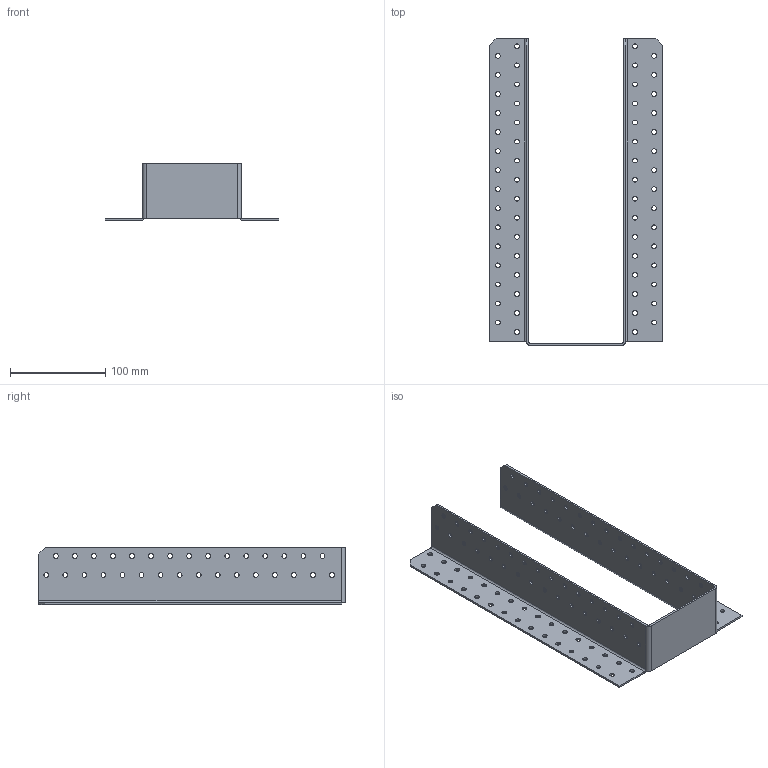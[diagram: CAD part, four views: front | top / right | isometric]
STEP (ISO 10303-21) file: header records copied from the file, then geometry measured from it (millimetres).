
FILE_DESCRIPTION (( 'STEP AP203' ), '1' );
FILE_NAME ('405042.STEP', '2021-04-17T16:09:28', ( '' ), ( '' ), 'SwSTEP 2.0', 'SolidWorks 2013', '' );
FILE_SCHEMA (( 'CONFIG_CONTROL_DESIGN' ));
Length unit declared in the file: millimetre
Products named in the file (1): 405042
Bounding box: 182 x 322 x 60 mm (x, y, z)
Volume: 131454 mm3; surface area: 138833.5 mm2
Topology: 1 solids, 1 shells, 292 faces, 840 edges, 550 vertices
Faces by surface type: cylinder 256, plane 36
Entity records: 10411 total; most frequent: DIRECTION 1940, CARTESIAN_POINT 1683, ORIENTED_EDGE 1680, EDGE_CURVE 840, AXIS2_PLACEMENT_3D 807, VERTEX_POINT 550, EDGE_LOOP 540, CIRCLE 514
